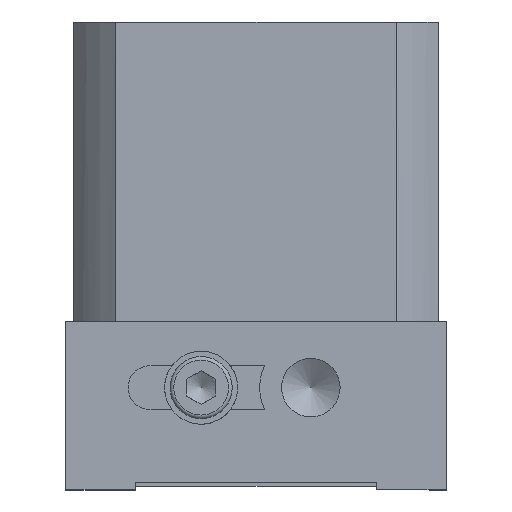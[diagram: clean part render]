
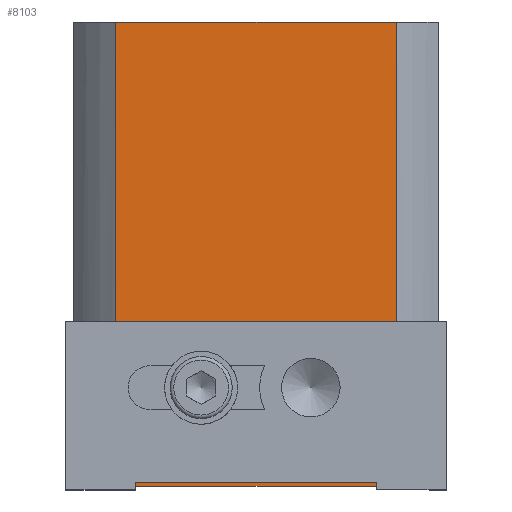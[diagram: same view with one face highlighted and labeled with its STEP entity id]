
A CAD part, left-side view. The second image highlights one B-rep face of the part: STEP entity #8103.
In plain terms, the highlighted planar face has unit normal (-1, 0, 0).
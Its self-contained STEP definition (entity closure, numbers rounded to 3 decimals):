
#1207=CARTESIAN_POINT('',(-25.,32.5,-44.0));
#1208=VERTEX_POINT('',#1207);
#1209=CARTESIAN_POINT('',(-25.,32.5,-50.));
#1210=DIRECTION('',(-1.0,0.0,0.0));
#1211=DIRECTION('',(0.0,1.0,0.0));
#1212=AXIS2_PLACEMENT_3D('',#1209,#1210,#1211);
#1213=CIRCLE('',#1212,6.);
#1214=EDGE_CURVE('',#1208,#1208,#1213,.T.);
#1283=CARTESIAN_POINT('',(-25.,17.5,-44.0));
#1284=VERTEX_POINT('',#1283);
#1285=CARTESIAN_POINT('',(-25.,17.5,-50.0));
#1286=DIRECTION('',(-1.0,0.0,0.0));
#1287=DIRECTION('',(0.0,-1.0,0.0));
#1288=AXIS2_PLACEMENT_3D('',#1285,#1286,#1287);
#1289=CIRCLE('',#1288,6.);
#1290=EDGE_CURVE('',#1284,#1284,#1289,.T.);
#6378=CARTESIAN_POINT('',(-25.,5.836,-63.5));
#6379=VERTEX_POINT('',#6378);
#6387=CARTESIAN_POINT('',(-25.,44.164,-63.5));
#6388=VERTEX_POINT('',#6387);
#6389=CARTESIAN_POINT('',(-25.,44.164,-63.5));
#6390=DIRECTION('',(0.0,-1.0,0.0));
#6391=VECTOR('',#6390,38.328);
#6392=LINE('',#6389,#6391);
#6393=EDGE_CURVE('',#6388,#6379,#6392,.T.);
#7157=CARTESIAN_POINT('',(-25.,44.164,0.0));
#7158=VERTEX_POINT('',#7157);
#7166=CARTESIAN_POINT('',(-25.,5.836,0.0));
#7167=VERTEX_POINT('',#7166);
#7168=CARTESIAN_POINT('',(-25.,44.164,0.0));
#7169=DIRECTION('',(0.0,-1.0,0.0));
#7170=VECTOR('',#7169,38.328);
#7171=LINE('',#7168,#7170);
#7172=EDGE_CURVE('',#7158,#7167,#7171,.T.);
#8003=CARTESIAN_POINT('',(-25.,5.836,0.0));
#8004=DIRECTION('',(0.0,0.0,-1.0));
#8005=VECTOR('',#8004,63.5);
#8006=LINE('',#8003,#8005);
#8007=EDGE_CURVE('',#7167,#6379,#8006,.T.);
#8073=CARTESIAN_POINT('',(-25.,44.164,0.0));
#8074=DIRECTION('',(0.0,0.0,-1.0));
#8075=VECTOR('',#8074,63.5);
#8076=LINE('',#8073,#8075);
#8077=EDGE_CURVE('',#7158,#6388,#8076,.T.);
#8086=CARTESIAN_POINT('',(-25.,44.164,0.0));
#8087=DIRECTION('',(-1.0,0.0,0.0));
#8088=DIRECTION('',(0.0,0.0,1.0));
#8089=AXIS2_PLACEMENT_3D('',#8086,#8087,#8088);
#8090=PLANE('',#8089);
#8091=ORIENTED_EDGE('',*,*,#8007,.F.);
#8092=ORIENTED_EDGE('',*,*,#7172,.F.);
#8093=ORIENTED_EDGE('',*,*,#8077,.T.);
#8094=ORIENTED_EDGE('',*,*,#6393,.T.);
#8095=EDGE_LOOP('',(#8091,#8092,#8093,#8094));
#8096=FACE_OUTER_BOUND('',#8095,.T.);
#8097=ORIENTED_EDGE('',*,*,#1214,.F.);
#8098=EDGE_LOOP('',(#8097));
#8099=FACE_BOUND('',#8098,.T.);
#8100=ORIENTED_EDGE('',*,*,#1290,.F.);
#8101=EDGE_LOOP('',(#8100));
#8102=FACE_BOUND('',#8101,.T.);
#8103=ADVANCED_FACE('',(#8096,#8099,#8102),#8090,.T.);
